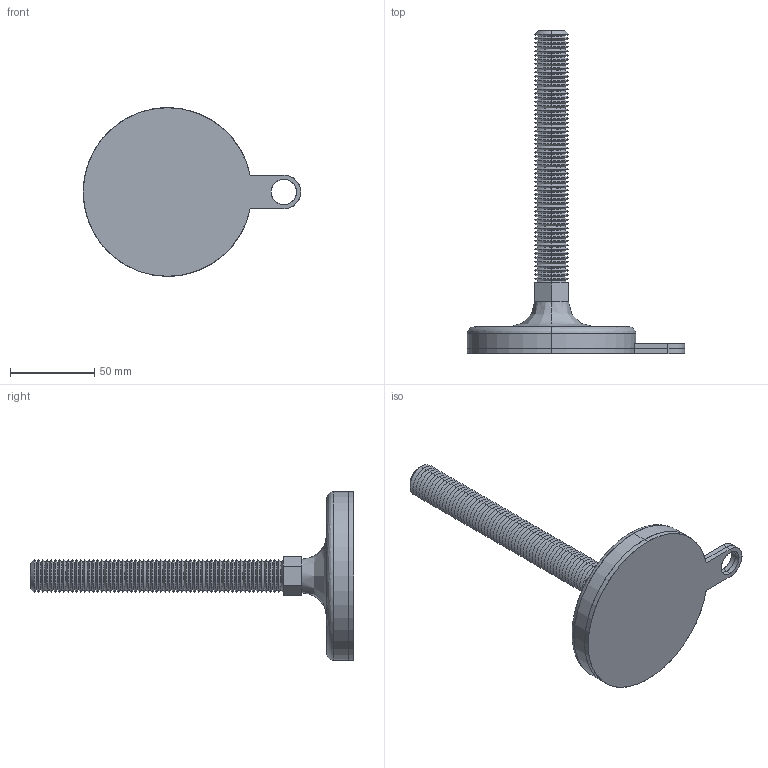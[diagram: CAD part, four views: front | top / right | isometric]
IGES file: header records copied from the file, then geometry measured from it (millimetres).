
Start section: SolidWorks IGES file using analytic representation for surfaces
Global section: file name: C:\Users\liam_\OneDrive\Documents\WORK\Work for WixRoyd\Job Files\J-00026 - Matt Davis CAD - 20191124\04. CAD Drawings\Wixroyd20191124\34704_v2\34704_v2_20191128_IGES\34704.W2006.igs; native system: SolidWorks 2017; preprocessor: SolidWorks 2017; author: liam_; date: 191128.202812; units: millimetre
Bounding box: 129 x 192 x 100 mm (x, y, z)
Surface area: 56005.3 mm2 (no closed solid volume)
Topology: 0 solids, 0 shells, 281 faces, 1756 edges, 1756 vertices
Faces by surface type: revolution 249, bspline 32
